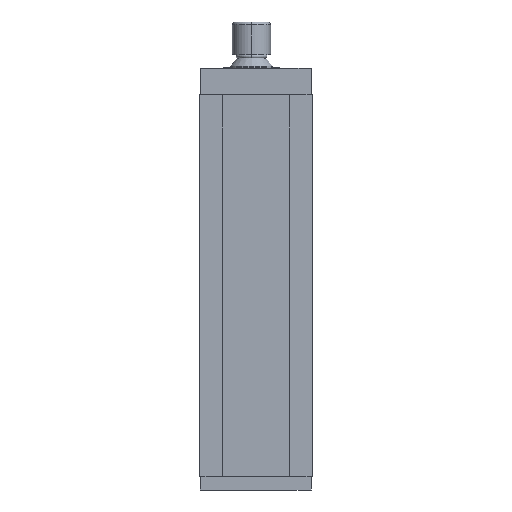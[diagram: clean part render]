
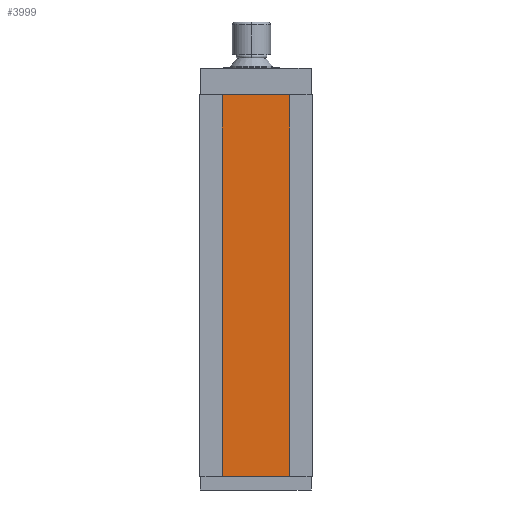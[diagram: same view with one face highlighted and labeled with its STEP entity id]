
A CAD part, front view. The second image highlights one B-rep face of the part: STEP entity #3999.
In plain terms, the highlighted planar face has unit normal (0, -1, 0).
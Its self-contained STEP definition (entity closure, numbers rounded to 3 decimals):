
#133 = CARTESIAN_POINT ( 'NONE',  ( 15.866, -11.5, 85. ) ) ;
#1003 = FACE_OUTER_BOUND ( 'NONE', #4048, .T. ) ;
#1018 = DIRECTION ( 'NONE',  ( 0., 0., 1. ) ) ;
#1019 = VECTOR ( 'NONE', #1018, 1000. ) ;
#1020 = CARTESIAN_POINT ( 'NONE',  ( -15.866, -11.5, -85. ) ) ;
#1021 = LINE ( 'NONE', #1020, #1019 ) ;
#1027 = DIRECTION ( 'NONE',  ( 0., 0., 1. ) ) ;
#1028 = VECTOR ( 'NONE', #1027, 1000. ) ;
#1029 = CARTESIAN_POINT ( 'NONE',  ( 15.866, -11.5, -85. ) ) ;
#1030 = LINE ( 'NONE', #1029, #1028 ) ;
#1035 = CARTESIAN_POINT ( 'NONE',  ( 15.866, -11.5, -85. ) ) ;
#1036 = CARTESIAN_POINT ( 'NONE',  ( -15.866, -11.5, 85. ) ) ;
#1038 = DIRECTION ( 'NONE',  ( -1., 0., 0. ) ) ;
#1039 = VECTOR ( 'NONE', #1038, 1000. ) ;
#1040 = CARTESIAN_POINT ( 'NONE',  ( 15.866, -11.5, 85. ) ) ;
#1041 = LINE ( 'NONE', #1040, #1039 ) ;
#1043 = DIRECTION ( 'NONE',  ( -1., 0., 0. ) ) ;
#1044 = DIRECTION ( 'NONE',  ( 0., 1., 0. ) ) ;
#1045 = CARTESIAN_POINT ( 'NONE',  ( 15.866, -11.5, -85. ) ) ;
#1046 = AXIS2_PLACEMENT_3D ( 'NONE', #1045, #1044, #1043 ) ;
#1047 = PLANE ( 'NONE',  #1046 ) ;
#1074 = DIRECTION ( 'NONE',  ( -1., 0., 0. ) ) ;
#1075 = VECTOR ( 'NONE', #1074, 1000. ) ;
#1076 = CARTESIAN_POINT ( 'NONE',  ( 15.866, -11.5, -85. ) ) ;
#1077 = LINE ( 'NONE', #1076, #1075 ) ;
#1165 = CARTESIAN_POINT ( 'NONE',  ( -15.866, -11.5, -85. ) ) ;
#3579 = VERTEX_POINT ( 'NONE', #133 ) ;
#3977 = EDGE_CURVE ( 'NONE', #4049, #4008, #1021, .T. ) ;
#3999 = ADVANCED_FACE ( 'Fl�che1', ( #1003 ), #1047, .F. ) ;
#4005 = EDGE_CURVE ( 'NONE', #3579, #4008, #1041, .T. ) ;
#4008 = VERTEX_POINT ( 'NONE', #1036 ) ;
#4009 = ORIENTED_EDGE ( 'NONE', *, *, #4005, .T. ) ;
#4010 = VERTEX_POINT ( 'NONE', #1035 ) ;
#4012 = EDGE_CURVE ( 'NONE', #4010, #3579, #1030, .T. ) ;
#4013 = ORIENTED_EDGE ( 'NONE', *, *, #4019, .F. ) ;
#4014 = ORIENTED_EDGE ( 'NONE', *, *, #4012, .T. ) ;
#4019 = EDGE_CURVE ( 'NONE', #4010, #4049, #1077, .T. ) ;
#4044 = ORIENTED_EDGE ( 'NONE', *, *, #3977, .F. ) ;
#4048 = EDGE_LOOP ( 'NONE', ( #4009, #4044, #4013, #4014 ) ) ;
#4049 = VERTEX_POINT ( 'NONE', #1165 ) ;
